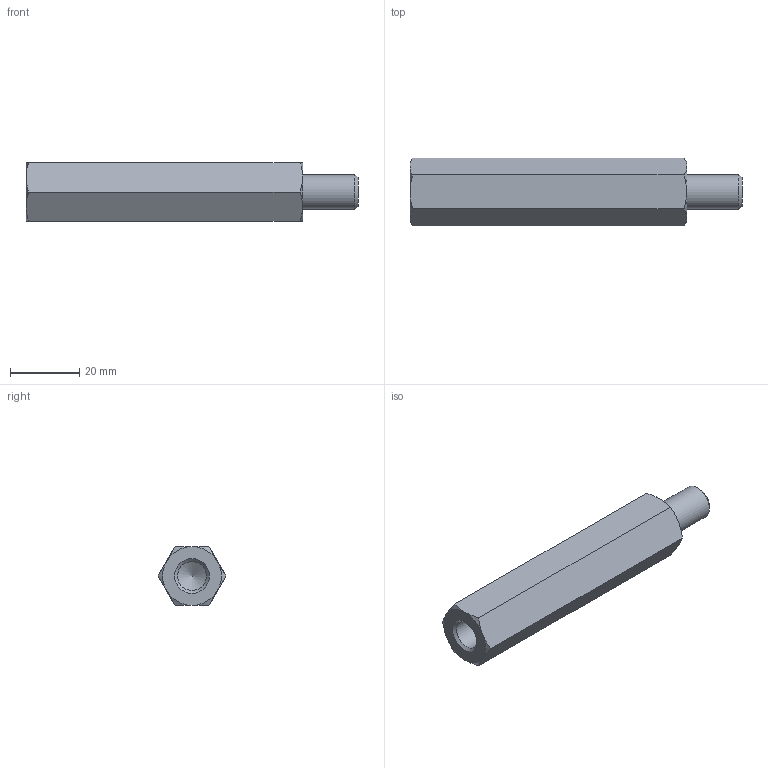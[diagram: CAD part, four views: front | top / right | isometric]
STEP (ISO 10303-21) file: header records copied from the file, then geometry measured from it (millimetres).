
FILE_DESCRIPTION( ( 'STEP AP203' ), '1' );
FILE_NAME( 'C:/Temp/Ganter_Step_05_03_2020/data/3_2/gn6220/gn6220_ni/Stainless Steel-Spacer GN 6220-NI-M10-80-B.stp', '2020-03-13T05:43:22', ( 'License CC BY-ND 4.0' ), ( 'CADENAS' ), ' ', 'PARTsolutions', ' ' );
FILE_SCHEMA( ( 'CONFIG_CONTROL_DESIGN' ) );
Length unit declared in the file: millimetre
Products named in the file (1): _Stainless Steel-Spacer GN 6220-NI-M10-80-B
Bounding box: 96 x 19.63 x 17 mm (x, y, z)
Volume: 19806.5 mm3; surface area: 6336.2 mm2
Topology: 1 solids, 1 shells, 26 faces, 55 edges, 32 vertices
Faces by surface type: cone 15, plane 9, cylinder 2
Full cylindrical faces by diameter (mm): 8.376 x1, 10 x1
Entity records: 778 total; most frequent: CARTESIAN_POINT 242, DIRECTION 96, ORIENTED_EDGE 96, EDGE_CURVE 48, AXIS2_PLACEMENT_3D 45, EDGE_LOOP 32, VERTEX_POINT 31, FACE_OUTER_BOUND 28
